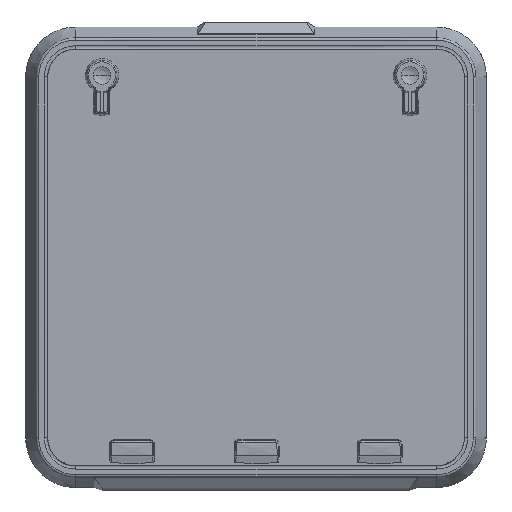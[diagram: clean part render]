
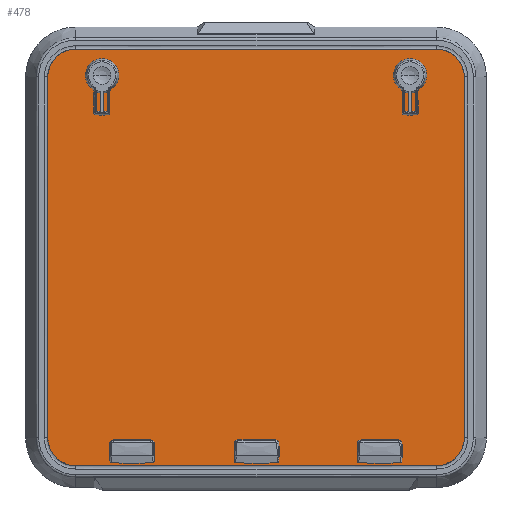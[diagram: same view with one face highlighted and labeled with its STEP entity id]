
A CAD part, front view. The second image highlights one B-rep face of the part: STEP entity #478.
In plain terms, the highlighted planar face has unit normal (0, -1, 0).
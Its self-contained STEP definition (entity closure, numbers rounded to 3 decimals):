
#1=CARTESIAN_POINT('',(81.9,0.,-39.6));
#2=DIRECTION('',(0.,-1.,0.));
#3=DIRECTION('',(1.,0.,0.));
#4=AXIS2_PLACEMENT_3D('',#1,#2,#3);
#6=CARTESIAN_POINT('',(81.9,0.,-39.6));
#7=DIRECTION('',(0.,-1.,0.));
#8=DIRECTION('',(-1.,0.,0.));
#9=AXIS2_PLACEMENT_3D('',#6,#7,#8);
#11=CARTESIAN_POINT('',(546.1,0.,-39.6));
#12=DIRECTION('',(0.,-1.,0.));
#13=DIRECTION('',(1.,0.,0.));
#14=AXIS2_PLACEMENT_3D('',#11,#12,#13);
#16=CARTESIAN_POINT('',(546.1,0.,-39.6));
#17=DIRECTION('',(0.,-1.,0.));
#18=DIRECTION('',(-1.,0.,0.));
#19=AXIS2_PLACEMENT_3D('',#16,#17,#18);
#21=DIRECTION('',(-1.,0.,0.));
#22=VECTOR('',#21,542.);
#23=CARTESIAN_POINT('',(585.,0.,-628.));
#24=LINE('',#23,#22);
#25=CARTESIAN_POINT('',(43.,0.,-585.));
#26=DIRECTION('',(0.,1.,0.));
#27=DIRECTION('',(0.,0.,-1.));
#28=AXIS2_PLACEMENT_3D('',#25,#26,#27);
#30=DIRECTION('',(0.,0.,1.));
#31=VECTOR('',#30,542.);
#32=CARTESIAN_POINT('',(0.,0.,-585.));
#33=LINE('',#32,#31);
#34=CARTESIAN_POINT('',(43.,0.,-43.));
#35=DIRECTION('',(0.,1.,0.));
#36=DIRECTION('',(-1.,0.,0.));
#37=AXIS2_PLACEMENT_3D('',#34,#35,#36);
#39=DIRECTION('',(1.,0.,0.));
#40=VECTOR('',#39,542.);
#41=CARTESIAN_POINT('',(43.,0.,0.));
#42=LINE('',#41,#40);
#43=CARTESIAN_POINT('',(585.,0.,-43.));
#44=DIRECTION('',(0.,1.,0.));
#45=DIRECTION('',(0.,0.,1.));
#46=AXIS2_PLACEMENT_3D('',#43,#44,#45);
#48=DIRECTION('',(0.,0.,-1.));
#49=VECTOR('',#48,542.);
#50=CARTESIAN_POINT('',(628.,0.,-43.));
#51=LINE('',#50,#49);
#52=CARTESIAN_POINT('',(585.,0.,-585.));
#53=DIRECTION('',(0.,1.,0.));
#54=DIRECTION('',(1.,0.,0.));
#55=AXIS2_PLACEMENT_3D('',#52,#53,#54);
#57=CARTESIAN_POINT('',(148.9,0.,-601.));
#58=DIRECTION('',(0.,-1.,0.));
#59=DIRECTION('',(0.,0.,-1.));
#60=AXIS2_PLACEMENT_3D('',#57,#58,#59);
#62=DIRECTION('',(-1.,0.,0.));
#63=VECTOR('',#62,43.);
#64=CARTESIAN_POINT('',(148.9,0.,-595.5));
#65=LINE('',#64,#63);
#66=CARTESIAN_POINT('',(105.9,0.,-601.));
#67=DIRECTION('',(0.,-1.,0.));
#68=DIRECTION('',(0.,0.,1.));
#69=AXIS2_PLACEMENT_3D('',#66,#67,#68);
#71=DIRECTION('',(1.,0.,0.));
#72=VECTOR('',#71,43.);
#73=CARTESIAN_POINT('',(105.9,0.,-606.5));
#74=LINE('',#73,#72);
#75=DIRECTION('',(1.,0.,0.));
#76=VECTOR('',#75,43.);
#77=CARTESIAN_POINT('',(479.1,0.,-606.5));
#78=LINE('',#77,#76);
#79=CARTESIAN_POINT('',(522.1,0.,-601.));
#80=DIRECTION('',(0.,-1.,0.));
#81=DIRECTION('',(0.,0.,-1.));
#82=AXIS2_PLACEMENT_3D('',#79,#80,#81);
#84=DIRECTION('',(-1.,0.,0.));
#85=VECTOR('',#84,43.);
#86=CARTESIAN_POINT('',(522.1,0.,-595.5));
#87=LINE('',#86,#85);
#88=CARTESIAN_POINT('',(479.1,0.,-601.));
#89=DIRECTION('',(0.,-1.,0.));
#90=DIRECTION('',(0.,0.,1.));
#91=AXIS2_PLACEMENT_3D('',#88,#89,#90);
#93=CARTESIAN_POINT('',(336.4,0.,-601.));
#94=DIRECTION('',(0.,-1.,0.));
#95=DIRECTION('',(0.,0.,-1.));
#96=AXIS2_PLACEMENT_3D('',#93,#94,#95);
#98=DIRECTION('',(-1.,0.,0.));
#99=VECTOR('',#98,43.);
#100=CARTESIAN_POINT('',(336.4,0.,-595.5));
#101=LINE('',#100,#99);
#102=CARTESIAN_POINT('',(293.4,0.,-601.));
#103=DIRECTION('',(0.,-1.,0.));
#104=DIRECTION('',(0.,0.,1.));
#105=AXIS2_PLACEMENT_3D('',#102,#103,#104);
#107=DIRECTION('',(1.,0.,0.));
#108=VECTOR('',#107,43.);
#109=CARTESIAN_POINT('',(293.4,0.,-606.5));
#110=LINE('',#109,#108);
#317=CARTESIAN_POINT('',(585.,0.,-628.));
#318=CARTESIAN_POINT('',(43.,0.,-628.));
#319=VERTEX_POINT('',#317);
#320=VERTEX_POINT('',#318);
#321=CARTESIAN_POINT('',(0.,0.,-585.));
#322=VERTEX_POINT('',#321);
#323=CARTESIAN_POINT('',(0.,0.,-43.));
#324=VERTEX_POINT('',#323);
#325=CARTESIAN_POINT('',(43.,0.,0.));
#326=VERTEX_POINT('',#325);
#337=CARTESIAN_POINT('',(89.4,0.,-39.6));
#338=CARTESIAN_POINT('',(74.4,0.,-39.6));
#339=VERTEX_POINT('',#337);
#340=VERTEX_POINT('',#338);
#345=CARTESIAN_POINT('',(553.6,0.,-39.6));
#346=CARTESIAN_POINT('',(538.6,0.,-39.6));
#347=VERTEX_POINT('',#345);
#348=VERTEX_POINT('',#346);
#349=CARTESIAN_POINT('',(585.,0.,0.));
#350=VERTEX_POINT('',#349);
#351=CARTESIAN_POINT('',(628.,0.,-43.));
#352=VERTEX_POINT('',#351);
#353=CARTESIAN_POINT('',(628.,0.,-585.));
#354=VERTEX_POINT('',#353);
#355=CARTESIAN_POINT('',(148.9,0.,-606.5));
#356=CARTESIAN_POINT('',(148.9,0.,-595.5));
#357=VERTEX_POINT('',#355);
#358=VERTEX_POINT('',#356);
#359=CARTESIAN_POINT('',(105.9,0.,-595.5));
#360=VERTEX_POINT('',#359);
#361=CARTESIAN_POINT('',(105.9,0.,-606.5));
#362=VERTEX_POINT('',#361);
#363=CARTESIAN_POINT('',(479.1,0.,-606.5));
#364=CARTESIAN_POINT('',(522.1,0.,-606.5));
#365=VERTEX_POINT('',#363);
#366=VERTEX_POINT('',#364);
#367=CARTESIAN_POINT('',(522.1,0.,-595.5));
#368=VERTEX_POINT('',#367);
#369=CARTESIAN_POINT('',(479.1,0.,-595.5));
#370=VERTEX_POINT('',#369);
#371=CARTESIAN_POINT('',(336.4,0.,-606.5));
#372=CARTESIAN_POINT('',(336.4,0.,-595.5));
#373=VERTEX_POINT('',#371);
#374=VERTEX_POINT('',#372);
#375=CARTESIAN_POINT('',(293.4,0.,-595.5));
#376=VERTEX_POINT('',#375);
#377=CARTESIAN_POINT('',(293.4,0.,-606.5));
#378=VERTEX_POINT('',#377);
#413=CARTESIAN_POINT('',(0.,0.,0.));
#414=DIRECTION('',(0.,1.,0.));
#415=DIRECTION('',(1.,0.,0.));
#416=AXIS2_PLACEMENT_3D('',#413,#414,#415);
#417=PLANE('',#416);
#419=ORIENTED_EDGE('',*,*,#418,.T.);
#421=ORIENTED_EDGE('',*,*,#420,.T.);
#423=ORIENTED_EDGE('',*,*,#422,.T.);
#425=ORIENTED_EDGE('',*,*,#424,.T.);
#427=ORIENTED_EDGE('',*,*,#426,.T.);
#429=ORIENTED_EDGE('',*,*,#428,.T.);
#431=ORIENTED_EDGE('',*,*,#430,.T.);
#433=ORIENTED_EDGE('',*,*,#432,.T.);
#434=EDGE_LOOP('',(#419,#421,#423,#425,#427,#429,#431,#433));
#435=FACE_OUTER_BOUND('',#434,.F.);
#437=ORIENTED_EDGE('',*,*,#436,.T.);
#439=ORIENTED_EDGE('',*,*,#438,.T.);
#440=EDGE_LOOP('',(#437,#439));
#441=FACE_BOUND('',#440,.F.);
#443=ORIENTED_EDGE('',*,*,#442,.T.);
#445=ORIENTED_EDGE('',*,*,#444,.T.);
#446=EDGE_LOOP('',(#443,#445));
#447=FACE_BOUND('',#446,.F.);
#449=ORIENTED_EDGE('',*,*,#448,.T.);
#451=ORIENTED_EDGE('',*,*,#450,.T.);
#453=ORIENTED_EDGE('',*,*,#452,.T.);
#455=ORIENTED_EDGE('',*,*,#454,.T.);
#456=EDGE_LOOP('',(#449,#451,#453,#455));
#457=FACE_BOUND('',#456,.F.);
#459=ORIENTED_EDGE('',*,*,#458,.T.);
#461=ORIENTED_EDGE('',*,*,#460,.T.);
#463=ORIENTED_EDGE('',*,*,#462,.T.);
#465=ORIENTED_EDGE('',*,*,#464,.T.);
#466=EDGE_LOOP('',(#459,#461,#463,#465));
#467=FACE_BOUND('',#466,.F.);
#469=ORIENTED_EDGE('',*,*,#468,.T.);
#471=ORIENTED_EDGE('',*,*,#470,.T.);
#473=ORIENTED_EDGE('',*,*,#472,.T.);
#475=ORIENTED_EDGE('',*,*,#474,.T.);
#476=EDGE_LOOP('',(#469,#471,#473,#475));
#477=FACE_BOUND('',#476,.F.);
#478=ADVANCED_FACE('',(#435,#441,#447,#457,#467,#477),#417,.F.);
#5=CIRCLE('',#4,7.5);
#10=CIRCLE('',#9,7.5);
#15=CIRCLE('',#14,7.5);
#20=CIRCLE('',#19,7.5);
#29=CIRCLE('',#28,43.);
#38=CIRCLE('',#37,43.);
#47=CIRCLE('',#46,43.);
#56=CIRCLE('',#55,43.);
#61=CIRCLE('',#60,5.5);
#70=CIRCLE('',#69,5.5);
#83=CIRCLE('',#82,5.5);
#92=CIRCLE('',#91,5.5);
#97=CIRCLE('',#96,5.5);
#106=CIRCLE('',#105,5.5);
#418=EDGE_CURVE('',#319,#320,#24,.T.);
#420=EDGE_CURVE('',#320,#322,#29,.T.);
#422=EDGE_CURVE('',#322,#324,#33,.T.);
#424=EDGE_CURVE('',#324,#326,#38,.T.);
#426=EDGE_CURVE('',#326,#350,#42,.T.);
#428=EDGE_CURVE('',#350,#352,#47,.T.);
#430=EDGE_CURVE('',#352,#354,#51,.T.);
#432=EDGE_CURVE('',#354,#319,#56,.T.);
#436=EDGE_CURVE('',#339,#340,#5,.T.);
#438=EDGE_CURVE('',#340,#339,#10,.T.);
#442=EDGE_CURVE('',#347,#348,#15,.T.);
#444=EDGE_CURVE('',#348,#347,#20,.T.);
#448=EDGE_CURVE('',#357,#358,#61,.T.);
#450=EDGE_CURVE('',#358,#360,#65,.T.);
#452=EDGE_CURVE('',#360,#362,#70,.T.);
#454=EDGE_CURVE('',#362,#357,#74,.T.);
#458=EDGE_CURVE('',#365,#366,#78,.T.);
#460=EDGE_CURVE('',#366,#368,#83,.T.);
#462=EDGE_CURVE('',#368,#370,#87,.T.);
#464=EDGE_CURVE('',#370,#365,#92,.T.);
#468=EDGE_CURVE('',#373,#374,#97,.T.);
#470=EDGE_CURVE('',#374,#376,#101,.T.);
#472=EDGE_CURVE('',#376,#378,#106,.T.);
#474=EDGE_CURVE('',#378,#373,#110,.T.);
